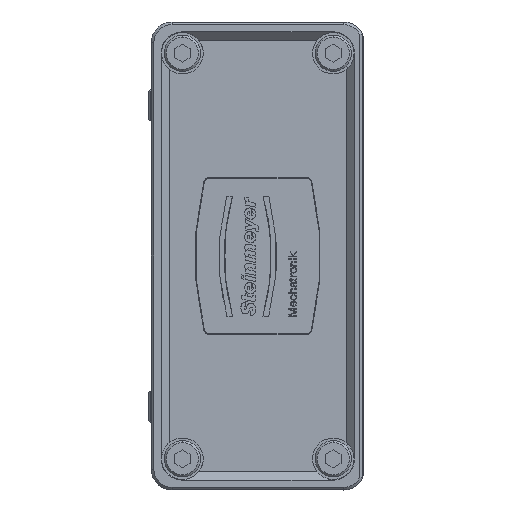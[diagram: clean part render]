
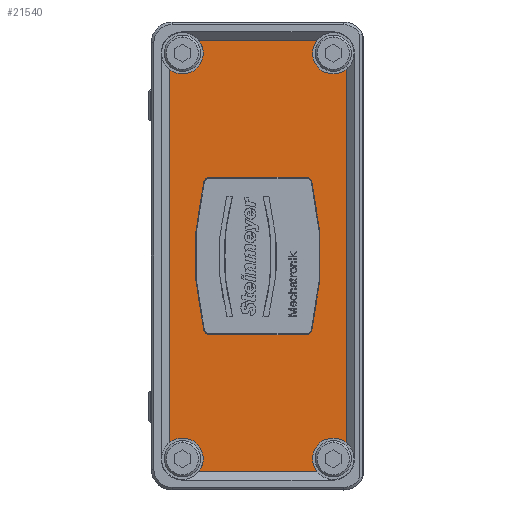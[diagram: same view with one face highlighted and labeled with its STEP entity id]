
A CAD part, left-side view. The second image highlights one B-rep face of the part: STEP entity #21540.
In plain terms, the highlighted planar face has unit normal (-1, 0, 0) as drawn and (0, 0, 1) by its records, which use the part's own axes.
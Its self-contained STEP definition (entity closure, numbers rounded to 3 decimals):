
#2746=CARTESIAN_POINT('',(-39.,6.,157.));
#2747=DIRECTION('',(0.,0.,1.));
#2748=DIRECTION('',(0.781,-0.625,0.));
#2749=AXIS2_PLACEMENT_3D('',#2746,#2747,#2748);
#2754=CARTESIAN_POINT('',(-39.,6.,157.));
#2755=DIRECTION('',(0.,0.,1.));
#2756=DIRECTION('',(0.,1.,0.));
#2757=AXIS2_PLACEMENT_3D('',#2754,#2755,#2756);
#2762=DIRECTION('',(0.,1.,0.));
#2763=VECTOR('',#2762,22.755);
#2764=CARTESIAN_POINT('',(-41.5,9.122,157.));
#2765=LINE('1316',#2764,#2763);
#2769=CARTESIAN_POINT('',(-39.,35.,157.));
#2770=DIRECTION('',(0.,0.,1.));
#2771=DIRECTION('',(-0.625,-0.781,0.));
#2772=AXIS2_PLACEMENT_3D('',#2769,#2770,#2771);
#2777=CARTESIAN_POINT('',(-39.,35.,157.));
#2778=DIRECTION('',(0.,0.,1.));
#2779=DIRECTION('',(0.,-1.,0.));
#2780=AXIS2_PLACEMENT_3D('',#2777,#2778,#2779);
#2785=DIRECTION('',(1.,0.,0.));
#2786=VECTOR('',#2785,71.755);
#2787=CARTESIAN_POINT('',(-35.878,37.5,157.));
#2788=LINE('1319',#2787,#2786);
#2792=CARTESIAN_POINT('',(39.,35.,157.));
#2793=DIRECTION('',(0.,0.,1.));
#2794=DIRECTION('',(-0.781,0.625,0.));
#2795=AXIS2_PLACEMENT_3D('',#2792,#2793,#2794);
#2800=CARTESIAN_POINT('',(39.,35.,157.));
#2801=DIRECTION('',(0.,0.,1.));
#2802=DIRECTION('',(0.,-1.,0.));
#2803=AXIS2_PLACEMENT_3D('',#2800,#2801,#2802);
#2808=DIRECTION('',(0.,-1.,0.));
#2809=VECTOR('',#2808,22.755);
#2810=CARTESIAN_POINT('',(41.5,31.878,157.));
#2811=LINE('1321',#2810,#2809);
#2815=CARTESIAN_POINT('',(39.,6.,157.));
#2816=DIRECTION('',(0.,0.,1.));
#2817=DIRECTION('',(0.625,0.781,0.));
#2818=AXIS2_PLACEMENT_3D('',#2815,#2816,#2817);
#2823=CARTESIAN_POINT('',(39.,6.,157.));
#2824=DIRECTION('',(0.,0.,1.));
#2825=DIRECTION('',(0.,1.,0.));
#2826=AXIS2_PLACEMENT_3D('',#2823,#2824,#2825);
#2831=DIRECTION('',(-1.,0.,0.));
#2832=VECTOR('',#2831,71.755);
#2833=CARTESIAN_POINT('',(35.878,3.5,157.));
#2834=LINE('1324',#2833,#2832);
#2838=CARTESIAN_POINT('',(14.,29.815,157.));
#2839=DIRECTION('',(0.,0.,1.));
#2840=DIRECTION('',(1.,0.,0.));
#2841=AXIS2_PLACEMENT_3D('',#2838,#2839,#2840);
#2846=CARTESIAN_POINT('',(0.,-27.5,157.));
#2847=DIRECTION('',(0.,0.,1.));
#2848=DIRECTION('',(0.237,0.971,0.));
#2849=AXIS2_PLACEMENT_3D('',#2846,#2847,#2848);
#2854=CARTESIAN_POINT('',(-14.,29.815,157.));
#2855=DIRECTION('',(0.,0.,1.));
#2856=DIRECTION('',(-0.237,0.971,0.));
#2857=AXIS2_PLACEMENT_3D('',#2854,#2855,#2856);
#2862=CARTESIAN_POINT('',(-14.,11.185,157.));
#2863=DIRECTION('',(0.,0.,1.));
#2864=DIRECTION('',(-1.,0.,0.));
#2865=AXIS2_PLACEMENT_3D('',#2862,#2863,#2864);
#2870=CARTESIAN_POINT('',(0.,68.5,157.));
#2871=DIRECTION('',(0.,0.,1.));
#2872=DIRECTION('',(-0.237,-0.971,0.));
#2873=AXIS2_PLACEMENT_3D('',#2870,#2871,#2872);
#2878=CARTESIAN_POINT('',(14.,11.185,157.));
#2879=DIRECTION('',(0.,0.,1.));
#2880=DIRECTION('',(0.237,-0.971,0.));
#2881=AXIS2_PLACEMENT_3D('',#2878,#2879,#2880);
#4034=DIRECTION('',(0.,-1.,0.));
#4035=VECTOR('',#4034,18.63);
#4036=CARTESIAN_POINT('',(15.1,29.815,157.));
#4037=LINE('1332',#4036,#4035);
#4069=DIRECTION('',(0.,1.,0.));
#4070=VECTOR('',#4069,18.63);
#4071=CARTESIAN_POINT('',(-15.1,11.185,157.));
#4072=LINE('1328',#4071,#4070);
#17878=CARTESIAN_POINT('',(39.,31.,157.));
#17879=CARTESIAN_POINT('',(41.5,31.878,157.));
#17880=VERTEX_POINT('',#17878);
#17881=VERTEX_POINT('',#17879);
#17887=CARTESIAN_POINT('',(-35.878,3.5,157.));
#17888=CARTESIAN_POINT('',(-39.,10.,157.));
#17889=VERTEX_POINT('',#17887);
#17890=VERTEX_POINT('',#17888);
#17891=CARTESIAN_POINT('',(-41.5,9.122,157.));
#17892=VERTEX_POINT('',#17891);
#17893=CARTESIAN_POINT('',(-41.5,31.878,157.));
#17894=VERTEX_POINT('',#17893);
#17895=CARTESIAN_POINT('',(-39.,31.,157.));
#17896=VERTEX_POINT('',#17895);
#17897=CARTESIAN_POINT('',(-35.878,37.5,157.));
#17898=VERTEX_POINT('',#17897);
#17899=CARTESIAN_POINT('',(35.878,37.5,157.));
#17900=VERTEX_POINT('',#17899);
#17901=CARTESIAN_POINT('',(41.5,9.122,157.));
#17902=VERTEX_POINT('',#17901);
#17903=CARTESIAN_POINT('',(39.,10.,157.));
#17904=VERTEX_POINT('',#17903);
#17905=CARTESIAN_POINT('',(35.878,3.5,157.));
#17906=VERTEX_POINT('',#17905);
#17907=CARTESIAN_POINT('',(15.1,29.815,157.));
#17908=CARTESIAN_POINT('',(14.261,30.884,157.));
#17909=VERTEX_POINT('',#17907);
#17910=VERTEX_POINT('',#17908);
#17911=CARTESIAN_POINT('',(-14.261,30.884,157.));
#17912=VERTEX_POINT('',#17911);
#17913=CARTESIAN_POINT('',(-15.1,29.815,157.));
#17914=VERTEX_POINT('',#17913);
#17915=CARTESIAN_POINT('',(-15.1,11.185,157.));
#17916=VERTEX_POINT('',#17915);
#17917=CARTESIAN_POINT('',(-14.261,10.116,157.));
#17918=VERTEX_POINT('',#17917);
#17919=CARTESIAN_POINT('',(14.261,10.116,157.));
#17920=VERTEX_POINT('',#17919);
#17921=CARTESIAN_POINT('',(15.1,11.185,157.));
#17922=VERTEX_POINT('',#17921);
#21492=CARTESIAN_POINT('',(45.,20.5,157.));
#21493=DIRECTION('',(0.,0.,1.));
#21494=DIRECTION('',(1.,0.,0.));
#21495=AXIS2_PLACEMENT_3D('',#21492,#21493,#21494);
#21496=PLANE('335',#21495);
#21498=ORIENTED_EDGE('1314',*,*,#21497,.T.);
#21500=ORIENTED_EDGE('1315',*,*,#21499,.T.);
#21502=ORIENTED_EDGE('1316',*,*,#21501,.T.);
#21504=ORIENTED_EDGE('1317',*,*,#21503,.T.);
#21506=ORIENTED_EDGE('1318',*,*,#21505,.T.);
#21508=ORIENTED_EDGE('1319',*,*,#21507,.T.);
#21510=ORIENTED_EDGE('1320',*,*,#21509,.T.);
#21511=ORIENTED_EDGE('1308',*,*,#21476,.T.);
#21513=ORIENTED_EDGE('1321',*,*,#21512,.T.);
#21515=ORIENTED_EDGE('1322',*,*,#21514,.T.);
#21517=ORIENTED_EDGE('1323',*,*,#21516,.T.);
#21519=ORIENTED_EDGE('1324',*,*,#21518,.T.);
#21520=EDGE_LOOP('335',(#21498,#21500,#21502,#21504,#21506,#21508,#21510,#21511,
#21513,#21515,#21517,#21519));
#21521=FACE_OUTER_BOUND('335',#21520,.F.);
#21523=ORIENTED_EDGE('1325',*,*,#21522,.T.);
#21525=ORIENTED_EDGE('1326',*,*,#21524,.T.);
#21527=ORIENTED_EDGE('1327',*,*,#21526,.T.);
#21529=ORIENTED_EDGE('1328',*,*,#21528,.F.);
#21531=ORIENTED_EDGE('1329',*,*,#21530,.T.);
#21533=ORIENTED_EDGE('1330',*,*,#21532,.T.);
#21535=ORIENTED_EDGE('1331',*,*,#21534,.T.);
#21537=ORIENTED_EDGE('1332',*,*,#21536,.F.);
#21538=EDGE_LOOP('335',(#21523,#21525,#21527,#21529,#21531,#21533,#21535,
#21537));
#21539=FACE_BOUND('335',#21538,.F.);
#2750=CIRCLE('1314',#2749,4.);
#2758=CIRCLE('1315',#2757,4.);
#2773=CIRCLE('1317',#2772,4.);
#2781=CIRCLE('1318',#2780,4.);
#2796=CIRCLE('1320',#2795,4.);
#2804=CIRCLE('1308',#2803,4.);
#2819=CIRCLE('1322',#2818,4.);
#2827=CIRCLE('1323',#2826,4.);
#2842=CIRCLE('1325',#2841,1.1);
#2850=CIRCLE('1326',#2849,60.1);
#2858=CIRCLE('1327',#2857,1.1);
#2866=CIRCLE('1329',#2865,1.1);
#2874=CIRCLE('1330',#2873,60.1);
#2882=CIRCLE('1331',#2881,1.1);
#21476=EDGE_CURVE('1308',#17880,#17881,#2804,.T.);
#21497=EDGE_CURVE('1314',#17889,#17890,#2750,.T.);
#21499=EDGE_CURVE('1315',#17890,#17892,#2758,.T.);
#21501=EDGE_CURVE('1316',#17892,#17894,#2765,.T.);
#21503=EDGE_CURVE('1317',#17894,#17896,#2773,.T.);
#21505=EDGE_CURVE('1318',#17896,#17898,#2781,.T.);
#21507=EDGE_CURVE('1319',#17898,#17900,#2788,.T.);
#21509=EDGE_CURVE('1320',#17900,#17880,#2796,.T.);
#21512=EDGE_CURVE('1321',#17881,#17902,#2811,.T.);
#21514=EDGE_CURVE('1322',#17902,#17904,#2819,.T.);
#21516=EDGE_CURVE('1323',#17904,#17906,#2827,.T.);
#21518=EDGE_CURVE('1324',#17906,#17889,#2834,.T.);
#21522=EDGE_CURVE('1325',#17909,#17910,#2842,.T.);
#21524=EDGE_CURVE('1326',#17910,#17912,#2850,.T.);
#21526=EDGE_CURVE('1327',#17912,#17914,#2858,.T.);
#21528=EDGE_CURVE('1328',#17916,#17914,#4072,.T.);
#21530=EDGE_CURVE('1329',#17916,#17918,#2866,.T.);
#21532=EDGE_CURVE('1330',#17918,#17920,#2874,.T.);
#21534=EDGE_CURVE('1331',#17920,#17922,#2882,.T.);
#21536=EDGE_CURVE('1332',#17909,#17922,#4037,.T.);
#21540=ADVANCED_FACE('335',(#21521,#21539),#21496,.T.);
